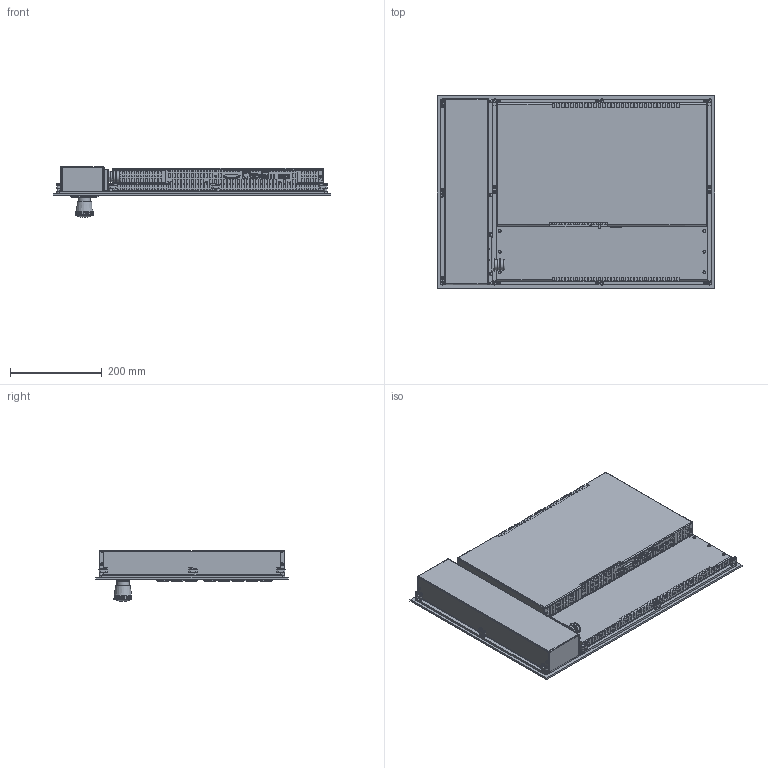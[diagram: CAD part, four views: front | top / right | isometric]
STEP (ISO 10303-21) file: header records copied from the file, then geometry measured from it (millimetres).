
FILE_DESCRIPTION((''),'2;1');
FILE_NAME('X:\0-inventor\0-3d-Teile\PC-Compo\solids\CP69xx\CP6232-00000+0001-E945.stp','2010-06-21T10:16:04',('christianKreuzer'),(''),'Autodesk Inventor 2011','Autodesk Inventor 2011','');
FILE_SCHEMA(('AUTOMOTIVE_DESIGN { 1 0 10303 214 1 1 1 1 }'));
Length unit declared in the file: millimetre
Products named in the file (1): CP6232-0001-E945-Step-Vorlage
Bounding box: 602.6 x 418.2 x 110.37 mm (x, y, z)
Volume: 95768.8 mm3; surface area: 1002892.5 mm2
Topology: 70 solids, 71 shells, 4679 faces, 12120 edges, 7771 vertices
Faces by surface type: plane 3238, cylinder 913, bspline 343, cone 123, torus 60, sphere 2
Full cylindrical faces by diameter (mm): 1.567 x2, 2.459 x2, 2.729 x2, 3 x24, 3.141 x11, 3.2 x32, 3.242 x13, 3.3 x6, 4 x39, 4.5 x27, 5.5 x11, 6.5 x27, 7 x11, 7.6 x5, 8.5 x11, 13.4 x2, 19 x1, 20 x1, 21 x1, 22 x18, 23.5 x2, 26.7 x1
Entity records: 153333 total; most frequent: CARTESIAN_POINT 36937, ORIENTED_EDGE 23244, DIRECTION 21959, EDGE_CURVE 11622, VECTOR 8661, LINE 8661, VERTEX_POINT 7626, AXIS2_PLACEMENT_3D 6649
